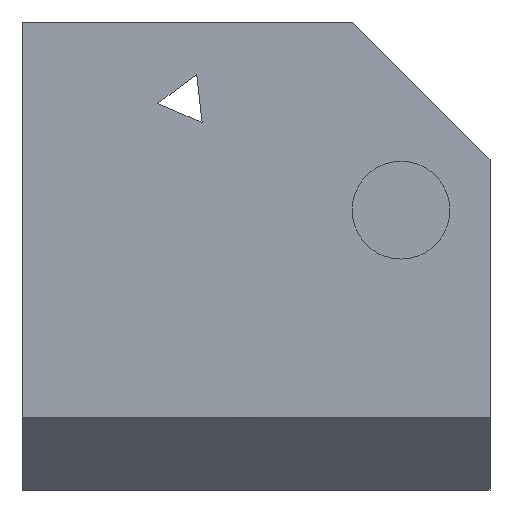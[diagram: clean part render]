
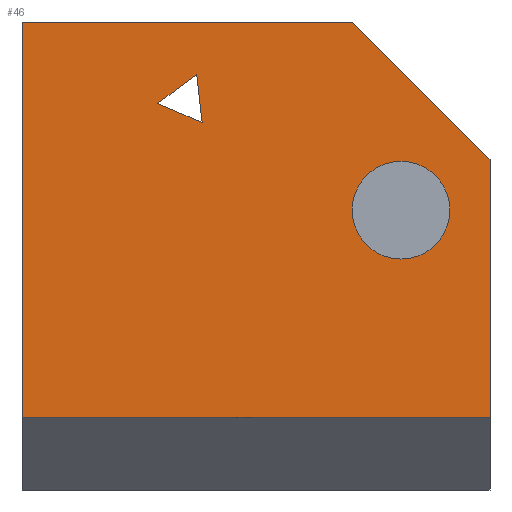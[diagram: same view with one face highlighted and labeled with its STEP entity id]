
A CAD part, front view. The second image highlights one B-rep face of the part: STEP entity #46.
In plain terms, the highlighted planar face has unit normal (0, -1, 0).
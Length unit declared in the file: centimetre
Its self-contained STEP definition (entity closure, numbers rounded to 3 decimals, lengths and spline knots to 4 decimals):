
#2 = CARTESIAN_POINT ( 'NONE',  ( 809.7921, 0., 597.9324 ) ) ;
#5 = EDGE_LOOP ( 'NONE', ( #438, #736 ) ) ;
#8 = VERTEX_POINT ( 'NONE', #309 ) ;
#11 = EDGE_CURVE ( 'NONE', #63, #330, #433, .T. ) ;
#22 = CIRCLE ( 'NONE', #628, 104.4379 ) ;
#33 = VECTOR ( 'NONE', #291, 100. ) ;
#45 = LINE ( 'NONE', #285, #437 ) ;
#46 = ADVANCED_FACE ( 'NONE', ( #671, #379, #614 ), #72, .F. ) ;
#51 = DIRECTION ( 'NONE',  ( 0., 0., 1. ) ) ;
#59 = DIRECTION ( 'NONE',  ( -0.917, 0., 0.399 ) ) ;
#63 = VERTEX_POINT ( 'NONE', #405 ) ;
#65 = DIRECTION ( 'NONE',  ( 0., 0., -1. ) ) ;
#68 = CARTESIAN_POINT ( 'NONE',  ( 0., 0., 1000. ) ) ;
#72 = PLANE ( 'NONE',  #168 ) ;
#80 = LINE ( 'NONE', #134, #235 ) ;
#81 = VERTEX_POINT ( 'NONE', #779 ) ;
#82 = ORIENTED_EDGE ( 'NONE', *, *, #457, .T. ) ;
#86 = EDGE_CURVE ( 'NONE', #8, #137, #351, .T. ) ;
#93 = VECTOR ( 'NONE', #688, 100. ) ;
#101 = CARTESIAN_POINT ( 'NONE',  ( 809.7921, 0., 702.3703 ) ) ;
#114 = ORIENTED_EDGE ( 'NONE', *, *, #191, .T. ) ;
#119 = VERTEX_POINT ( 'NONE', #294 ) ;
#134 = CARTESIAN_POINT ( 'NONE',  ( 0., 0., 1000. ) ) ;
#137 = VERTEX_POINT ( 'NONE', #766 ) ;
#140 = VERTEX_POINT ( 'NONE', #234 ) ;
#151 = EDGE_CURVE ( 'NONE', #341, #662, #522, .T. ) ;
#168 = AXIS2_PLACEMENT_3D ( 'NONE', #315, #253, #51 ) ;
#179 = ORIENTED_EDGE ( 'NONE', *, *, #674, .T. ) ;
#187 = LINE ( 'NONE', #251, #483 ) ;
#188 = ORIENTED_EDGE ( 'NONE', *, *, #11, .F. ) ;
#190 = ORIENTED_EDGE ( 'NONE', *, *, #661, .T. ) ;
#191 = EDGE_CURVE ( 'NONE', #504, #81, #357, .T. ) ;
#195 = VECTOR ( 'NONE', #454, 100. ) ;
#207 = DIRECTION ( 'NONE',  ( 0., 0., -1. ) ) ;
#234 = CARTESIAN_POINT ( 'NONE',  ( 384.8847, 0., 784.8723 ) ) ;
#235 = VECTOR ( 'NONE', #207, 100. ) ;
#236 = ORIENTED_EDGE ( 'NONE', *, *, #529, .T. ) ;
#251 = CARTESIAN_POINT ( 'NONE',  ( 290.084, 0., 826.1178 ) ) ;
#253 = DIRECTION ( 'NONE',  ( 0., 1., 0. ) ) ;
#263 = EDGE_CURVE ( 'NONE', #662, #341, #22, .T. ) ;
#278 = DIRECTION ( 'NONE',  ( 0.804, 0., 0.595 ) ) ;
#285 = CARTESIAN_POINT ( 'NONE',  ( 0., 0., 155.0051 ) ) ;
#288 = EDGE_CURVE ( 'NONE', #140, #504, #187, .T. ) ;
#291 = DIRECTION ( 'NONE',  ( 0., 0., -1. ) ) ;
#294 = CARTESIAN_POINT ( 'NONE',  ( 0., 0., 155.0051 ) ) ;
#309 = CARTESIAN_POINT ( 'NONE',  ( 1000., 0., 706.2006 ) ) ;
#315 = CARTESIAN_POINT ( 'NONE',  ( 0., 0., 1000. ) ) ;
#330 = VERTEX_POINT ( 'NONE', #404 ) ;
#336 = CARTESIAN_POINT ( 'NONE',  ( 706.2006, 0., 1000. ) ) ;
#341 = VERTEX_POINT ( 'NONE', #101 ) ;
#351 = LINE ( 'NONE', #456, #33 ) ;
#357 = LINE ( 'NONE', #656, #686 ) ;
#370 = DIRECTION ( 'NONE',  ( 1., 0., 0. ) ) ;
#379 = FACE_BOUND ( 'NONE', #526, .T. ) ;
#402 = AXIS2_PLACEMENT_3D ( 'NONE', #660, #647, #585 ) ;
#404 = CARTESIAN_POINT ( 'NONE',  ( 706.2006, 0., 1000. ) ) ;
#405 = CARTESIAN_POINT ( 'NONE',  ( 0., 0., 1000. ) ) ;
#433 = LINE ( 'NONE', #68, #737 ) ;
#437 = VECTOR ( 'NONE', #521, 100. ) ;
#438 = ORIENTED_EDGE ( 'NONE', *, *, #263, .F. ) ;
#454 = DIRECTION ( 'NONE',  ( -0.707, 0., 0.707 ) ) ;
#456 = CARTESIAN_POINT ( 'NONE',  ( 1000., 0., 1000. ) ) ;
#457 = EDGE_CURVE ( 'NONE', #63, #119, #80, .T. ) ;
#470 = LINE ( 'NONE', #336, #195 ) ;
#483 = VECTOR ( 'NONE', #59, 100. ) ;
#504 = VERTEX_POINT ( 'NONE', #562 ) ;
#521 = DIRECTION ( 'NONE',  ( 1., 0., 0. ) ) ;
#522 = CIRCLE ( 'NONE', #402, 104.4379 ) ;
#526 = EDGE_LOOP ( 'NONE', ( #114, #236, #606 ) ) ;
#529 = EDGE_CURVE ( 'NONE', #81, #140, #740, .T. ) ;
#546 = ORIENTED_EDGE ( 'NONE', *, *, #86, .F. ) ;
#562 = CARTESIAN_POINT ( 'NONE',  ( 290.084, 0., 826.1178 ) ) ;
#585 = DIRECTION ( 'NONE',  ( 0., 0., -1. ) ) ;
#605 = DIRECTION ( 'NONE',  ( 0., -1., 0. ) ) ;
#606 = ORIENTED_EDGE ( 'NONE', *, *, #288, .T. ) ;
#614 = FACE_OUTER_BOUND ( 'NONE', #618, .T. ) ;
#618 = EDGE_LOOP ( 'NONE', ( #82, #190, #546, #179, #188 ) ) ;
#628 = AXIS2_PLACEMENT_3D ( 'NONE', #2, #605, #65 ) ;
#647 = DIRECTION ( 'NONE',  ( 0., -1., 0. ) ) ;
#656 = CARTESIAN_POINT ( 'NONE',  ( 373.204, 0., 887.5949 ) ) ;
#660 = CARTESIAN_POINT ( 'NONE',  ( 809.7921, 0., 597.9324 ) ) ;
#661 = EDGE_CURVE ( 'NONE', #119, #137, #45, .T. ) ;
#662 = VERTEX_POINT ( 'NONE', #763 ) ;
#671 = FACE_BOUND ( 'NONE', #5, .T. ) ;
#674 = EDGE_CURVE ( 'NONE', #8, #330, #470, .T. ) ;
#686 = VECTOR ( 'NONE', #278, 100. ) ;
#688 = DIRECTION ( 'NONE',  ( 0.113, 0., -0.994 ) ) ;
#736 = ORIENTED_EDGE ( 'NONE', *, *, #151, .F. ) ;
#737 = VECTOR ( 'NONE', #370, 100. ) ;
#740 = LINE ( 'NONE', #747, #93 ) ;
#747 = CARTESIAN_POINT ( 'NONE',  ( 384.8847, 0., 784.8723 ) ) ;
#763 = CARTESIAN_POINT ( 'NONE',  ( 809.7921, 0., 493.4944 ) ) ;
#766 = CARTESIAN_POINT ( 'NONE',  ( 1000., 0., 155.0051 ) ) ;
#779 = CARTESIAN_POINT ( 'NONE',  ( 373.204, 0., 887.5949 ) ) ;
